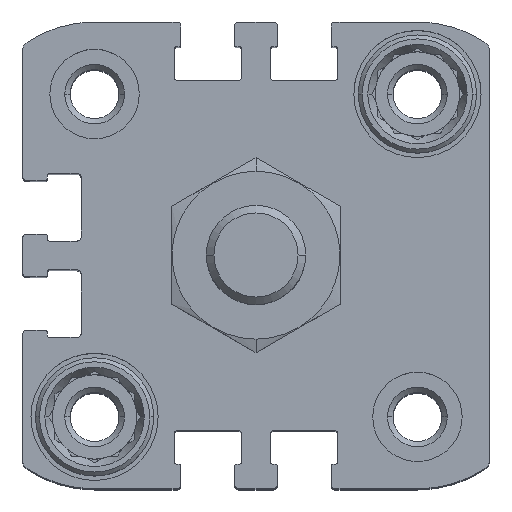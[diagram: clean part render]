
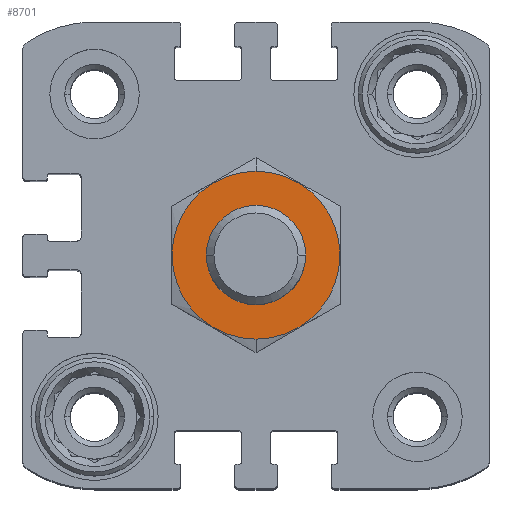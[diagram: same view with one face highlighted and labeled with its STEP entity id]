
A CAD part, top view. The second image highlights one B-rep face of the part: STEP entity #8701.
In plain terms, the highlighted planar face has unit normal (0, 0, 1).
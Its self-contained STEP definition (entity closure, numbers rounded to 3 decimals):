
#729 = CARTESIAN_POINT ( 'NONE',  ( 0., 0., 15.75 ) ) ;
#888 = DIRECTION ( 'NONE',  ( 0., 0., -1. ) ) ;
#1009 = VERTEX_POINT ( 'NONE', #9403 ) ;
#1058 = ORIENTED_EDGE ( 'NONE', *, *, #4372, .F. ) ;
#1167 = AXIS2_PLACEMENT_3D ( 'NONE', #2772, #5409, #13331 ) ;
#1266 = VERTEX_POINT ( 'NONE', #8597 ) ;
#1829 = AXIS2_PLACEMENT_3D ( 'NONE', #12292, #9318, #4205 ) ;
#2025 = CIRCLE ( 'NONE', #10439, 5. ) ;
#2772 = CARTESIAN_POINT ( 'NONE',  ( 0., 0., 15.75 ) ) ;
#2985 = DIRECTION ( 'NONE',  ( 0., 0., -1. ) ) ;
#3083 = EDGE_CURVE ( 'NONE', #16592, #14440, #6477, .T. ) ;
#3365 = CIRCLE ( 'NONE', #6451, 8.45 ) ;
#4205 = DIRECTION ( 'NONE',  ( 0., 1., 0. ) ) ;
#4372 = EDGE_CURVE ( 'NONE', #14440, #16592, #3365, .T. ) ;
#4860 = EDGE_LOOP ( 'NONE', ( #6157, #1058 ) ) ;
#4895 = AXIS2_PLACEMENT_3D ( 'NONE', #729, #888, #12999 ) ;
#5409 = DIRECTION ( 'NONE',  ( 0., 0., -1. ) ) ;
#5752 = ORIENTED_EDGE ( 'NONE', *, *, #7261, .T. ) ;
#6090 = CARTESIAN_POINT ( 'NONE',  ( 0., 0., 15.75 ) ) ;
#6157 = ORIENTED_EDGE ( 'NONE', *, *, #3083, .F. ) ;
#6249 = CARTESIAN_POINT ( 'NONE',  ( 0., -8.45, 15.75 ) ) ;
#6451 = AXIS2_PLACEMENT_3D ( 'NONE', #6090, #7490, #11443 ) ;
#6477 = CIRCLE ( 'NONE', #1167, 8.45 ) ;
#7261 = EDGE_CURVE ( 'NONE', #1266, #1009, #16678, .T. ) ;
#7490 = DIRECTION ( 'NONE',  ( 0., 0., -1. ) ) ;
#8597 = CARTESIAN_POINT ( 'NONE',  ( 0., -5., 15.75 ) ) ;
#8701 = ADVANCED_FACE ( 'NONE', ( #13446, #16255 ), #10712, .F. ) ;
#9318 = DIRECTION ( 'NONE',  ( 0., 0., -1. ) ) ;
#9403 = CARTESIAN_POINT ( 'NONE',  ( 0., 5., 15.75 ) ) ;
#10439 = AXIS2_PLACEMENT_3D ( 'NONE', #10947, #2985, #11055 ) ;
#10712 = PLANE ( 'NONE',  #1829 ) ;
#10947 = CARTESIAN_POINT ( 'NONE',  ( 0., 0., 15.75 ) ) ;
#11055 = DIRECTION ( 'NONE',  ( 0., 1., 0. ) ) ;
#11443 = DIRECTION ( 'NONE',  ( 0., 1., 0. ) ) ;
#12292 = CARTESIAN_POINT ( 'NONE',  ( 0., 0., 15.75 ) ) ;
#12999 = DIRECTION ( 'NONE',  ( 0., 1., 0. ) ) ;
#13331 = DIRECTION ( 'NONE',  ( 0., 1., 0. ) ) ;
#13446 = FACE_OUTER_BOUND ( 'NONE', #4860, .T. ) ;
#14440 = VERTEX_POINT ( 'NONE', #6249 ) ;
#15701 = CARTESIAN_POINT ( 'NONE',  ( 0., 8.45, 15.75 ) ) ;
#16090 = EDGE_CURVE ( 'NONE', #1009, #1266, #2025, .T. ) ;
#16255 = FACE_BOUND ( 'NONE', #16925, .T. ) ;
#16592 = VERTEX_POINT ( 'NONE', #15701 ) ;
#16678 = CIRCLE ( 'NONE', #4895, 5. ) ;
#16812 = ORIENTED_EDGE ( 'NONE', *, *, #16090, .T. ) ;
#16925 = EDGE_LOOP ( 'NONE', ( #5752, #16812 ) ) ;
